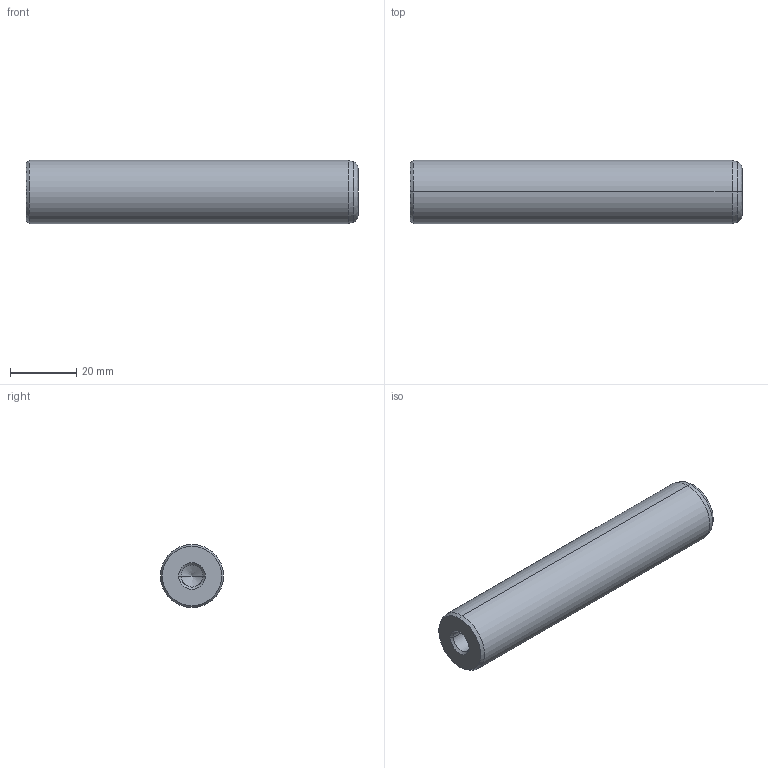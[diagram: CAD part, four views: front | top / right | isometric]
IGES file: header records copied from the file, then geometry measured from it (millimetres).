
Start section: START RECORD GO HERE.
Global section: file name: 720-19x100.igs; native system: DASSAULT SYSTEMES CATIA V5 R20 - www.3ds.com; preprocessor: CATIA Version 5 Release 20 ; author: Utente; organization: NB04-ASUS; date: 20210101.141008; units: millimetre
Bounding box: 100 x 19 x 19 mm (x, y, z)
Surface area: 7434.3 mm2 (no closed solid volume)
Topology: 0 solids, 0 shells, 22 faces, 120 edges, 116 vertices
Faces by surface type: revolution 20, plane 2
